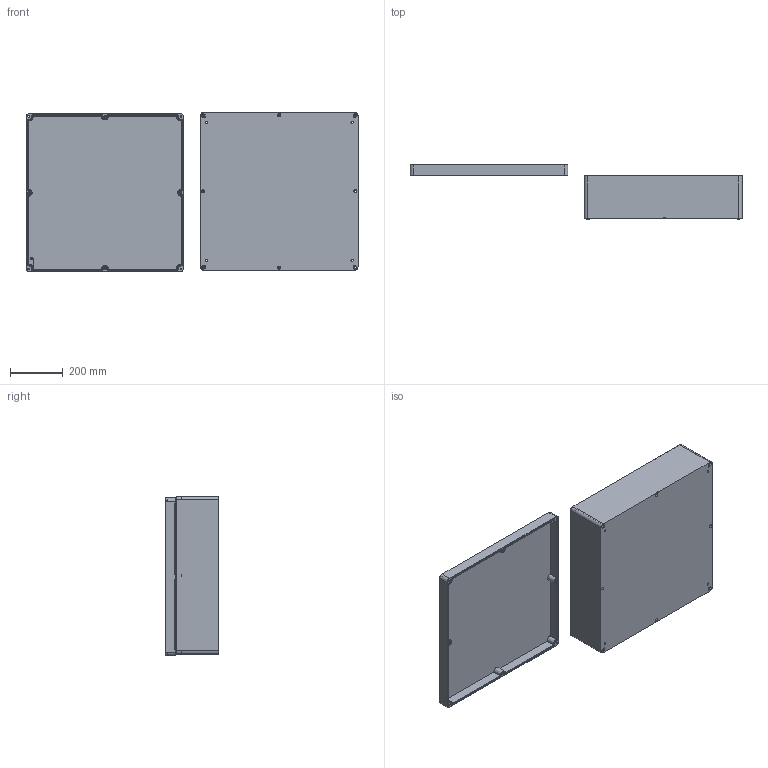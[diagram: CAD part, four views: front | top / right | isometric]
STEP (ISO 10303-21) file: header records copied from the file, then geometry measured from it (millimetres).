
FILE_DESCRIPTION (( 'STEP AP203' ), '1' );
FILE_NAME ('ZX-AL-606020_装配体.STEP', '2022-01-24T09:48:59', ( '微软用户' ), ( '微软中国' ), 'SwSTEP 2.0', 'SolidWorks 2020', '' );
FILE_SCHEMA (( 'CONFIG_CONTROL_DESIGN' ));
Length unit declared in the file: millimetre
Products named in the file (3): ZX-AL-606020_奻; ZX-AL-606020_狟; ZX-AL-606020_蚾饜极
Assembly tree (2 placements, depth 2):
  ZX-AL-606020_蚾饜极
    ZX-AL-606020_狟
    ZX-AL-606020_奻
Bounding box: 1263.06 x 205.43 x 604.88 mm (x, y, z)
Volume: 7535922.1 mm3; surface area: 2457997.4 mm2
Topology: 2 solids, 2 shells, 847 faces, 2328 edges, 1523 vertices
Faces by surface type: plane 418, cylinder 270, bspline 123, cone 36
Entity records: 32729 total; most frequent: CARTESIAN_POINT 11336, ORIENTED_EDGE 4620, DIRECTION 4008, EDGE_CURVE 2310, VECTOR 1530, LINE 1530, VERTEX_POINT 1523, AXIS2_PLACEMENT_3D 1239
